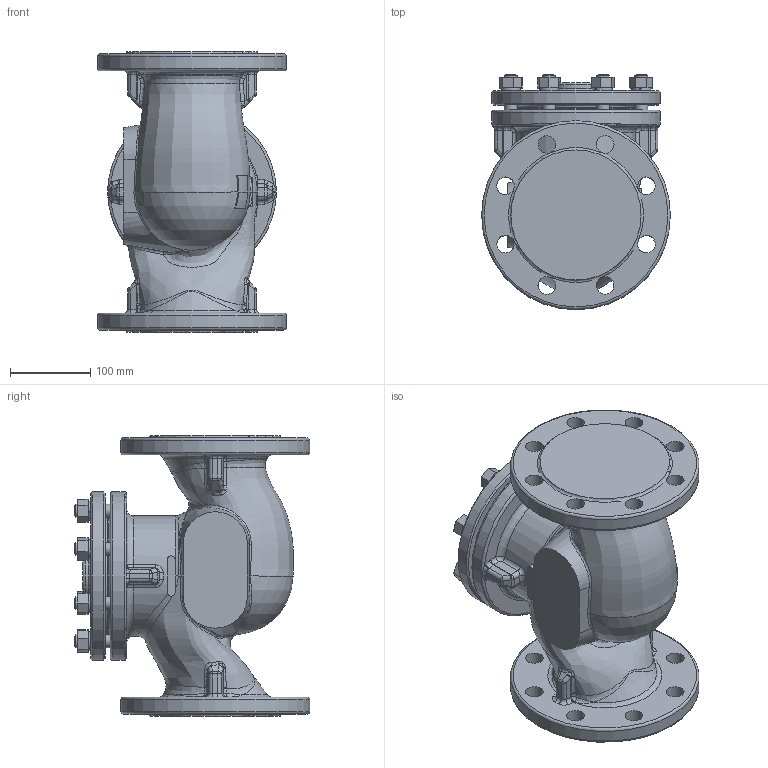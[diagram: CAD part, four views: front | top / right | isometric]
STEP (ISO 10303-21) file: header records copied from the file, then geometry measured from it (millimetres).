
FILE_DESCRIPTION(/* description */ (''),/* implementation_level */ '2;1');
FILE_NAME(/* name */ 'sestZV226_DN100.stp',/* time_stamp */ '2012-03-06T11:19:58+01:00',/* author */ (''),/* organization */ ('LDM'),/* preprocessor_version */ 'ST-DEVELOPER v11',/* originating_system */ 'SIEMENS PLM Software NX 7.0',/* authorisation */ '');
FILE_SCHEMA (('CONFIG_CONTROL_DESIGN'));
Length unit declared in the file: millimetre
Products named in the file (1): adam9E31edoq
Bounding box: 235 x 293 x 350 mm (x, y, z)
Volume: 9053794.9 mm3; surface area: 480962.8 mm2
Topology: 1 solids, 1 shells, 573 faces, 1396 edges, 827 vertices
Faces by surface type: plane 167, cylinder 156, bspline 120, torus 64, sphere 34, cone 32
Full cylindrical faces by diameter (mm): 16 x24, 22 x16, 60 x1, 142 x1, 150 x1, 152 x1, 210 x2, 235 x2
Entity records: 33453 total; most frequent: CARTESIAN_POINT 21274, ORIENTED_EDGE 2498, DIRECTION 2401, EDGE_CURVE 1249, AXIS2_PLACEMENT_3D 1006, VERTEX_POINT 783, EDGE_LOOP 742, ADVANCED_FACE 573
